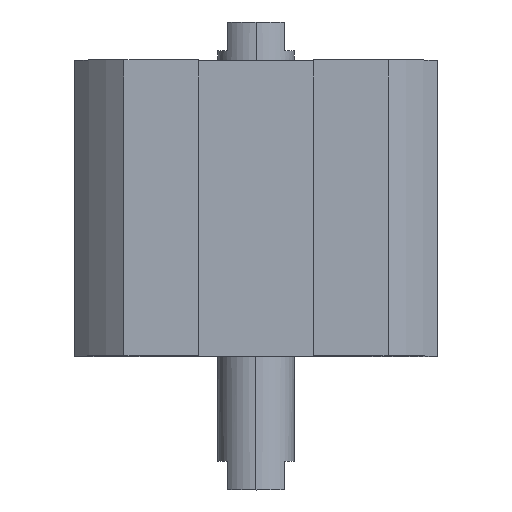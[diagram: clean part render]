
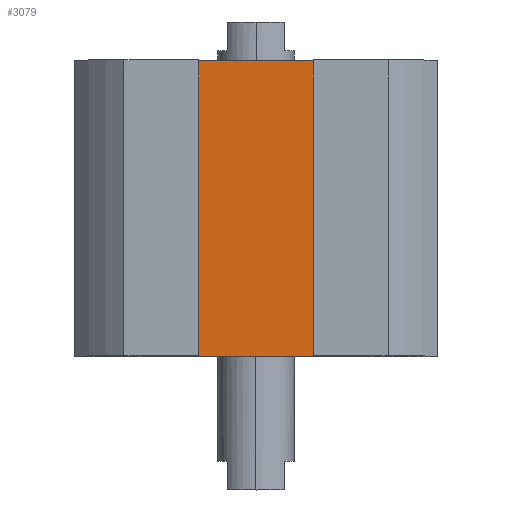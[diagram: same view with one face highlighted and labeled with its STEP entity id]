
A CAD part, top view. The second image highlights one B-rep face of the part: STEP entity #3079.
In plain terms, the highlighted planar face has unit normal (0, 0, 1).
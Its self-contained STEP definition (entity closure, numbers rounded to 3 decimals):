
#158 = DIRECTION ( 'NONE',  ( 0., 0., 1. ) ) ;
#261 = CARTESIAN_POINT ( 'NONE',  ( 7.75, -31., 12.75 ) ) ;
#399 = PLANE ( 'NONE',  #2575 ) ;
#506 = DIRECTION ( 'NONE',  ( 0., 1., 0. ) ) ;
#601 = CARTESIAN_POINT ( 'NONE',  ( -7.75, -31., 12.75 ) ) ;
#652 = EDGE_CURVE ( 'NONE', #2747, #2332, #2360, .T. ) ;
#663 = CARTESIAN_POINT ( 'NONE',  ( 7.75, 0., 12.75 ) ) ;
#806 = CARTESIAN_POINT ( 'NONE',  ( -7.75, -31., 12.75 ) ) ;
#812 = LINE ( 'NONE', #806, #2302 ) ;
#869 = ORIENTED_EDGE ( 'NONE', *, *, #1472, .F. ) ;
#942 = LINE ( 'NONE', #3527, #1515 ) ;
#953 = ORIENTED_EDGE ( 'NONE', *, *, #652, .T. ) ;
#1011 = DIRECTION ( 'NONE',  ( 1., 0., 0. ) ) ;
#1028 = CARTESIAN_POINT ( 'NONE',  ( 7.75, -31., 12.75 ) ) ;
#1052 = EDGE_CURVE ( 'NONE', #2765, #2747, #942, .T. ) ;
#1221 = ORIENTED_EDGE ( 'NONE', *, *, #1972, .F. ) ;
#1472 = EDGE_CURVE ( 'NONE', #3658, #2332, #1739, .T. ) ;
#1513 = DIRECTION ( 'NONE',  ( 1., 0., 0. ) ) ;
#1515 = VECTOR ( 'NONE', #1513, 1000. ) ;
#1536 = DIRECTION ( 'NONE',  ( 1., 0., 0. ) ) ;
#1739 = LINE ( 'NONE', #2433, #3319 ) ;
#1911 = DIRECTION ( 'NONE',  ( 0., 1., 0. ) ) ;
#1972 = EDGE_CURVE ( 'NONE', #2765, #3658, #812, .T. ) ;
#2071 = CARTESIAN_POINT ( 'NONE',  ( -7.75, 0., 12.75 ) ) ;
#2219 = ORIENTED_EDGE ( 'NONE', *, *, #1052, .T. ) ;
#2302 = VECTOR ( 'NONE', #506, 1000. ) ;
#2332 = VERTEX_POINT ( 'NONE', #663 ) ;
#2360 = LINE ( 'NONE', #1028, #3594 ) ;
#2433 = CARTESIAN_POINT ( 'NONE',  ( 0., 0., 12.75 ) ) ;
#2575 = AXIS2_PLACEMENT_3D ( 'NONE', #3217, #158, #1536 ) ;
#2747 = VERTEX_POINT ( 'NONE', #261 ) ;
#2765 = VERTEX_POINT ( 'NONE', #601 ) ;
#2777 = FACE_OUTER_BOUND ( 'NONE', #3652, .T. ) ;
#3079 = ADVANCED_FACE ( 'NONE', ( #2777 ), #399, .T. ) ;
#3217 = CARTESIAN_POINT ( 'NONE',  ( 0., -31., 12.75 ) ) ;
#3319 = VECTOR ( 'NONE', #1011, 1000. ) ;
#3527 = CARTESIAN_POINT ( 'NONE',  ( 0., -31., 12.75 ) ) ;
#3594 = VECTOR ( 'NONE', #1911, 1000. ) ;
#3652 = EDGE_LOOP ( 'NONE', ( #869, #1221, #2219, #953 ) ) ;
#3658 = VERTEX_POINT ( 'NONE', #2071 ) ;
